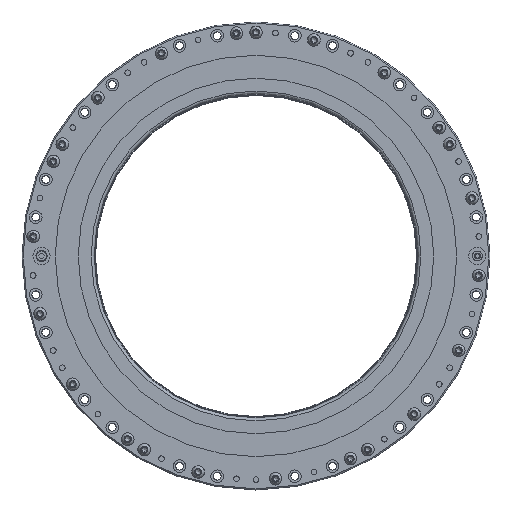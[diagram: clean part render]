
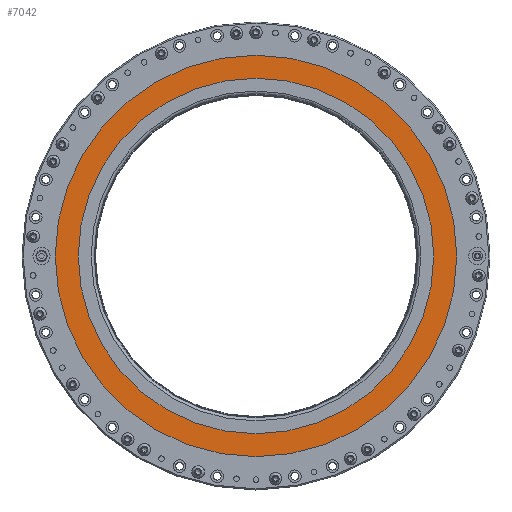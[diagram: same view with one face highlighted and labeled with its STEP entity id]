
A CAD part, top view. The second image highlights one B-rep face of the part: STEP entity #7042.
In plain terms, the highlighted planar face has unit normal (0, 0, 1) as drawn and (0, 0, -1) by its records, which use the part's own axes.
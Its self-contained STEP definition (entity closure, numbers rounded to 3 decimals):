
#490=PLANE('',#7586);
#729=CIRCLE('',#7587,155.);
#730=CIRCLE('',#7588,175.);
#1353=ORIENTED_EDGE('',*,*,#2317,.T.);
#1354=ORIENTED_EDGE('',*,*,#2318,.F.);
#2317=EDGE_CURVE('',#2862,#2862,#729,.T.);
#2318=EDGE_CURVE('',#2863,#2863,#730,.T.);
#2862=VERTEX_POINT('',#11025);
#2863=VERTEX_POINT('',#11027);
#3633=EDGE_LOOP('',(#1353));
#3634=EDGE_LOOP('',(#1354));
#4340=FACE_BOUND('',#3633,.T.);
#4341=FACE_BOUND('',#3634,.T.);
#7042=ADVANCED_FACE('',(#4340,#4341),#490,.F.);
#7586=AXIS2_PLACEMENT_3D('',#11023,#8688,#8689);
#7587=AXIS2_PLACEMENT_3D('',#11024,#8690,#8691);
#7588=AXIS2_PLACEMENT_3D('',#11026,#8692,#8693);
#8688=DIRECTION('',(0.,0.,1.));
#8689=DIRECTION('',(1.,0.,0.));
#8690=DIRECTION('',(0.,0.,1.));
#8691=DIRECTION('',(1.,0.,0.));
#8692=DIRECTION('',(0.,0.,1.));
#8693=DIRECTION('',(1.,0.,0.));
#11023=CARTESIAN_POINT('',(155.,0.,-10.5));
#11024=CARTESIAN_POINT('',(0.,0.,-10.5));
#11025=CARTESIAN_POINT('',(155.,0.,-10.5));
#11026=CARTESIAN_POINT('',(0.,0.,-10.5));
#11027=CARTESIAN_POINT('',(175.,0.,-10.5));
